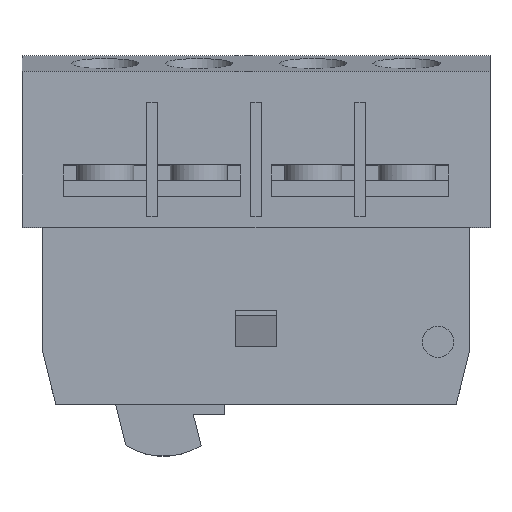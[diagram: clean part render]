
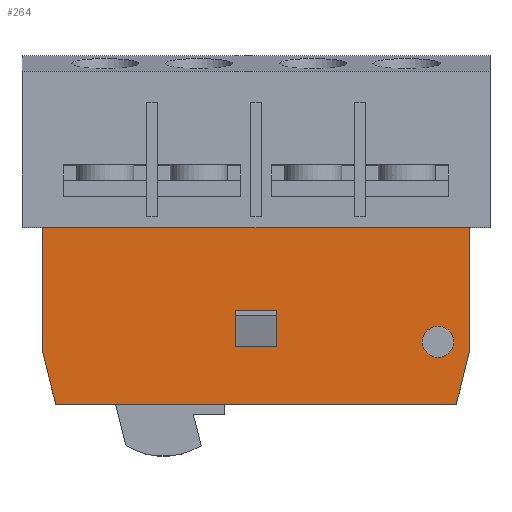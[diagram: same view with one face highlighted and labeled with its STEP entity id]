
A CAD part, top view. The second image highlights one B-rep face of the part: STEP entity #264.
In plain terms, the highlighted planar face has unit normal (0, 0, 1).
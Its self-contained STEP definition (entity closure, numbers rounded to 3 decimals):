
#118 = EDGE_CURVE ( 'NONE', #2146, #2268, #3405, .T. ) ;
#143 = EDGE_CURVE ( 'NONE', #2199, #2176, #3402, .T. ) ;
#153 = EDGE_CURVE ( 'NONE', #1013, #2251, #929, .T. ) ;
#155 = EDGE_CURVE ( 'NONE', #2159, #2209, #3244, .T. ) ;
#156 = EDGE_CURVE ( 'NONE', #2176, #2146, #3311, .T. ) ;
#159 = EDGE_CURVE ( 'NONE', #2223, #2209, #3452, .T. ) ;
#160 = EDGE_CURVE ( 'NONE', #2261, #2159, #3303, .T. ) ;
#174 = EDGE_CURVE ( 'NONE', #2261, #2223, #3359, .T. ) ;
#264 = ADVANCED_FACE ( 'NONE', ( #2884, #2883, #2882 ), #3903, .F. ) ;
#346 = EDGE_CURVE ( 'NONE', #2252, #2199, #1659, .T. ) ;
#362 = EDGE_CURVE ( 'NONE', #2268, #2263, #1648, .T. ) ;
#396 = EDGE_CURVE ( 'NONE', #2263, #2252, #515, .T. ) ;
#397 = EDGE_CURVE ( 'NONE', #2251, #1013, #3179, .T. ) ;
#515 = LINE ( 'NONE', #2530, #1446 ) ;
#559 = DIRECTION ( 'NONE',  ( 0., 1., 0. ) ) ;
#578 = DIRECTION ( 'NONE',  ( 0., -1., 0. ) ) ;
#580 = CARTESIAN_POINT ( 'NONE',  ( 17.5, -11., 7.5 ) ) ;
#581 = DIRECTION ( 'NONE',  ( 0., 1., 0. ) ) ;
#582 = CARTESIAN_POINT ( 'NONE',  ( -20.5, -12., 7.5 ) ) ;
#585 = CARTESIAN_POINT ( 'NONE',  ( 2., -11.5, 7.5 ) ) ;
#596 = DIRECTION ( 'NONE',  ( -1., 0., 0. ) ) ;
#599 = DIRECTION ( 'NONE',  ( -1., 0., 0. ) ) ;
#602 = CARTESIAN_POINT ( 'NONE',  ( 2., -8., 7.5 ) ) ;
#604 = CARTESIAN_POINT ( 'NONE',  ( -20.5, 0., 7.5 ) ) ;
#631 = CARTESIAN_POINT ( 'NONE',  ( -2., -11.5, 7.5 ) ) ;
#633 = DIRECTION ( 'NONE',  ( 0., 0., 1. ) ) ;
#697 = DIRECTION ( 'NONE',  ( 0.243, -0.97, 0. ) ) ;
#708 = CARTESIAN_POINT ( 'NONE',  ( -20.5, 0., 7.5 ) ) ;
#730 = DIRECTION ( 'NONE',  ( -1., 0., 0. ) ) ;
#764 = DIRECTION ( 'NONE',  ( -1., 0., 0. ) ) ;
#765 = CARTESIAN_POINT ( 'NONE',  ( 2., -11.5, 7.5 ) ) ;
#788 = VECTOR ( 'NONE', #559, 1000. ) ;
#795 = VECTOR ( 'NONE', #764, 1000. ) ;
#919 = VECTOR ( 'NONE', #596, 1000. ) ;
#920 = VECTOR ( 'NONE', #578, 1000. ) ;
#922 = VECTOR ( 'NONE', #581, 1000. ) ;
#923 = VECTOR ( 'NONE', #730, 1000. ) ;
#929 = CIRCLE ( 'NONE', #937, 1.5 ) ;
#937 = AXIS2_PLACEMENT_3D ( 'NONE', #580, #633, #599 ) ;
#1013 = VERTEX_POINT ( 'NONE', #2557 ) ;
#1159 = CARTESIAN_POINT ( 'NONE',  ( 2., -11.5, 7.5 ) ) ;
#1162 = CARTESIAN_POINT ( 'NONE',  ( -20.5, 0., 7.5 ) ) ;
#1164 = CARTESIAN_POINT ( 'NONE',  ( -2., -8., 7.5 ) ) ;
#1167 = CARTESIAN_POINT ( 'NONE',  ( 20.5, 0., 7.5 ) ) ;
#1178 = CARTESIAN_POINT ( 'NONE',  ( 19., -11., 7.5 ) ) ;
#1179 = CARTESIAN_POINT ( 'NONE',  ( 20.5, -12., 7.5 ) ) ;
#1186 = CARTESIAN_POINT ( 'NONE',  ( 19.25, -17., 7.5 ) ) ;
#1189 = CARTESIAN_POINT ( 'NONE',  ( -19.25, -17., 7.5 ) ) ;
#1191 = CARTESIAN_POINT ( 'NONE',  ( -2., -11.5, 7.5 ) ) ;
#1445 = AXIS2_PLACEMENT_3D ( 'NONE', #2479, #2560, #2505 ) ;
#1446 = VECTOR ( 'NONE', #2540, 1000. ) ;
#1491 = ORIENTED_EDGE ( 'NONE', *, *, #143, .T. ) ;
#1520 = ORIENTED_EDGE ( 'NONE', *, *, #118, .T. ) ;
#1553 = ORIENTED_EDGE ( 'NONE', *, *, #362, .T. ) ;
#1556 = ORIENTED_EDGE ( 'NONE', *, *, #156, .T. ) ;
#1627 = AXIS2_PLACEMENT_3D ( 'NONE', #3891, #3901, #3678 ) ;
#1648 = LINE ( 'NONE', #3095, #3191 ) ;
#1659 = LINE ( 'NONE', #3163, #1713 ) ;
#1713 = VECTOR ( 'NONE', #3127, 1000. ) ;
#2070 = VECTOR ( 'NONE', #697, 1000. ) ;
#2146 = VERTEX_POINT ( 'NONE', #2489 ) ;
#2159 = VERTEX_POINT ( 'NONE', #2546 ) ;
#2176 = VERTEX_POINT ( 'NONE', #1162 ) ;
#2199 = VERTEX_POINT ( 'NONE', #1167 ) ;
#2209 = VERTEX_POINT ( 'NONE', #1164 ) ;
#2223 = VERTEX_POINT ( 'NONE', #1191 ) ;
#2251 = VERTEX_POINT ( 'NONE', #1178 ) ;
#2252 = VERTEX_POINT ( 'NONE', #1179 ) ;
#2261 = VERTEX_POINT ( 'NONE', #1159 ) ;
#2263 = VERTEX_POINT ( 'NONE', #1186 ) ;
#2268 = VERTEX_POINT ( 'NONE', #1189 ) ;
#2479 = CARTESIAN_POINT ( 'NONE',  ( 17.5, -11., 7.5 ) ) ;
#2489 = CARTESIAN_POINT ( 'NONE',  ( -20.5, -12., 7.5 ) ) ;
#2505 = DIRECTION ( 'NONE',  ( -1., 0., 0. ) ) ;
#2530 = CARTESIAN_POINT ( 'NONE',  ( 20.5, -12., 7.5 ) ) ;
#2540 = DIRECTION ( 'NONE',  ( 0.243, 0.97, 0. ) ) ;
#2546 = CARTESIAN_POINT ( 'NONE',  ( 2., -8., 7.5 ) ) ;
#2557 = CARTESIAN_POINT ( 'NONE',  ( 16., -11., 7.5 ) ) ;
#2560 = DIRECTION ( 'NONE',  ( 0., 0., 1. ) ) ;
#2691 = ORIENTED_EDGE ( 'NONE', *, *, #155, .F. ) ;
#2705 = EDGE_LOOP ( 'NONE', ( #2737, #2744, #2746, #2691 ) ) ;
#2714 = EDGE_LOOP ( 'NONE', ( #3251, #3344 ) ) ;
#2737 = ORIENTED_EDGE ( 'NONE', *, *, #160, .F. ) ;
#2744 = ORIENTED_EDGE ( 'NONE', *, *, #174, .T. ) ;
#2746 = ORIENTED_EDGE ( 'NONE', *, *, #159, .T. ) ;
#2772 = EDGE_LOOP ( 'NONE', ( #1491, #1556, #1520, #1553, #4046, #4067 ) ) ;
#2882 = FACE_BOUND ( 'NONE', #2714, .T. ) ;
#2883 = FACE_OUTER_BOUND ( 'NONE', #2772, .T. ) ;
#2884 = FACE_BOUND ( 'NONE', #2705, .T. ) ;
#3082 = DIRECTION ( 'NONE',  ( 1., 0., 0. ) ) ;
#3095 = CARTESIAN_POINT ( 'NONE',  ( -19.25, -17., 7.5 ) ) ;
#3127 = DIRECTION ( 'NONE',  ( 0., 1., 0. ) ) ;
#3163 = CARTESIAN_POINT ( 'NONE',  ( 20.5, 0., 7.5 ) ) ;
#3179 = CIRCLE ( 'NONE', #1445, 1.5 ) ;
#3191 = VECTOR ( 'NONE', #3082, 1000. ) ;
#3244 = LINE ( 'NONE', #602, #919 ) ;
#3251 = ORIENTED_EDGE ( 'NONE', *, *, #153, .F. ) ;
#3303 = LINE ( 'NONE', #585, #788 ) ;
#3311 = LINE ( 'NONE', #604, #920 ) ;
#3344 = ORIENTED_EDGE ( 'NONE', *, *, #397, .F. ) ;
#3359 = LINE ( 'NONE', #765, #795 ) ;
#3402 = LINE ( 'NONE', #708, #923 ) ;
#3405 = LINE ( 'NONE', #582, #2070 ) ;
#3452 = LINE ( 'NONE', #631, #922 ) ;
#3678 = DIRECTION ( 'NONE',  ( -1., 0., 0. ) ) ;
#3891 = CARTESIAN_POINT ( 'NONE',  ( 20.5, 0., 7.5 ) ) ;
#3901 = DIRECTION ( 'NONE',  ( 0., 0., -1. ) ) ;
#3903 = PLANE ( 'NONE',  #1627 ) ;
#4046 = ORIENTED_EDGE ( 'NONE', *, *, #396, .T. ) ;
#4067 = ORIENTED_EDGE ( 'NONE', *, *, #346, .T. ) ;
